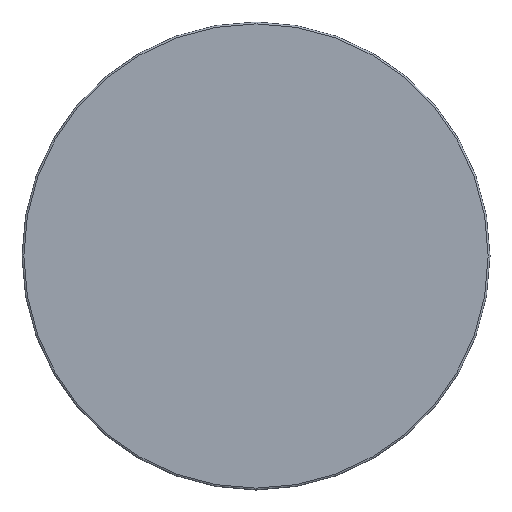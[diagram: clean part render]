
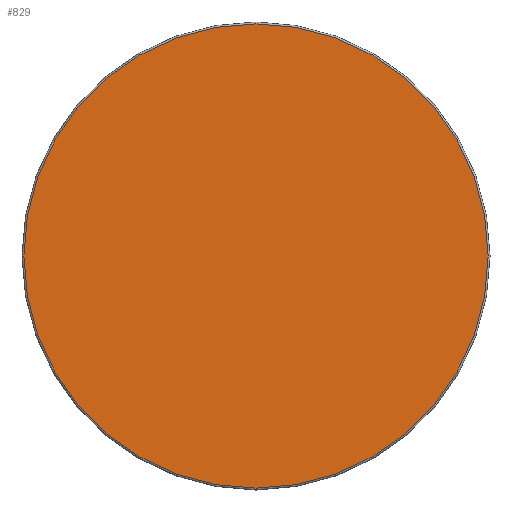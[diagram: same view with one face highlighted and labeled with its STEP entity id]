
A CAD part, left-side view. The second image highlights one B-rep face of the part: STEP entity #829.
In plain terms, the highlighted planar face has unit normal (-1, 0, 0).
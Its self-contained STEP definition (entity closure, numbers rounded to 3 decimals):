
#806=CARTESIAN_POINT('',(0.,124.0,0.0));
#807=VERTEX_POINT('',#806);
#808=CARTESIAN_POINT('',(0.,0.0,0.0));
#809=DIRECTION('',(1.0,0.0,0.0));
#810=DIRECTION('',(0.0,-1.0,0.0));
#811=AXIS2_PLACEMENT_3D('',#808,#809,#810);
#812=CIRCLE('',#811,124.0);
#813=EDGE_CURVE('',#807,#807,#812,.T.);
#821=CARTESIAN_POINT('',(0.,104.5,0.));
#822=DIRECTION('',(-1.0,0.0,0.0));
#823=DIRECTION('',(0.0,0.0,1.0));
#824=AXIS2_PLACEMENT_3D('',#821,#822,#823);
#825=PLANE('',#824);
#826=ORIENTED_EDGE('',*,*,#813,.F.);
#827=EDGE_LOOP('',(#826));
#828=FACE_OUTER_BOUND('',#827,.T.);
#829=ADVANCED_FACE('',(#828),#825,.T.);
